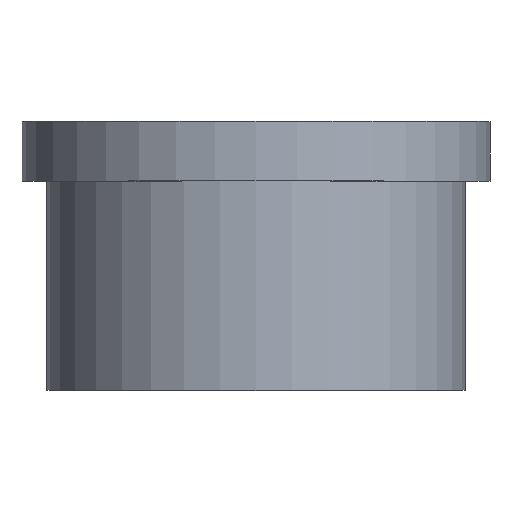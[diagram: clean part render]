
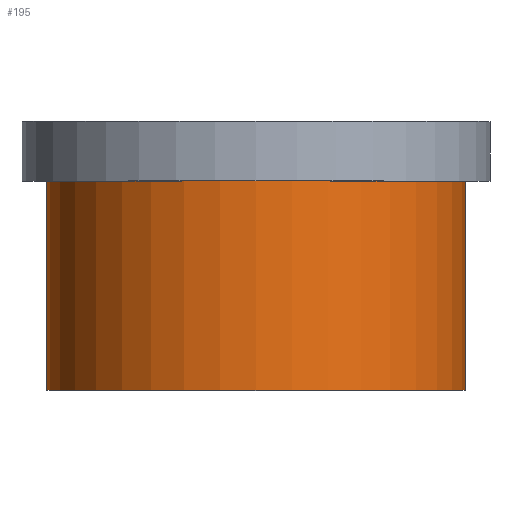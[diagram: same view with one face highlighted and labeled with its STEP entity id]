
A CAD part, top view. The second image highlights one B-rep face of the part: STEP entity #195.
In plain terms, the highlighted cylindrical face has radius 21 mm (diameter 42 mm), a full revolution.
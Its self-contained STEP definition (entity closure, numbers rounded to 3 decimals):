
#32=ORIENTED_EDGE('',*,*,#50,.T.);
#33=ORIENTED_EDGE('',*,*,#49,.F.);
#49=EDGE_CURVE('',#59,#59,#69,.T.);
#50=EDGE_CURVE('',#60,#60,#70,.T.);
#59=VERTEX_POINT('',#280);
#60=VERTEX_POINT('',#283);
#69=CIRCLE('',#213,21.);
#70=CIRCLE('',#215,21.);
#82=EDGE_LOOP('',(#32));
#83=EDGE_LOOP('',(#33));
#102=FACE_BOUND('',#82,.T.);
#103=FACE_BOUND('',#83,.T.);
#117=CYLINDRICAL_SURFACE('',#214,21.);
#195=ADVANCED_FACE('',(#102,#103),#117,.T.);
#213=AXIS2_PLACEMENT_3D('',#279,#241,#242);
#214=AXIS2_PLACEMENT_3D('',#281,#243,#244);
#215=AXIS2_PLACEMENT_3D('',#282,#245,#246);
#241=DIRECTION('',(0.,-1.,0.));
#242=DIRECTION('',(0.,0.,-1.));
#243=DIRECTION('',(0.,-1.,0.));
#244=DIRECTION('',(0.,0.,-1.));
#245=DIRECTION('',(0.,-1.,0.));
#246=DIRECTION('',(0.,0.,-1.));
#279=CARTESIAN_POINT('',(0.,0.,0.));
#280=CARTESIAN_POINT('',(0.,0.,-21.));
#281=CARTESIAN_POINT('',(0.,0.,0.));
#282=CARTESIAN_POINT('',(0.,21.,0.));
#283=CARTESIAN_POINT('',(0.,21.,-21.));
